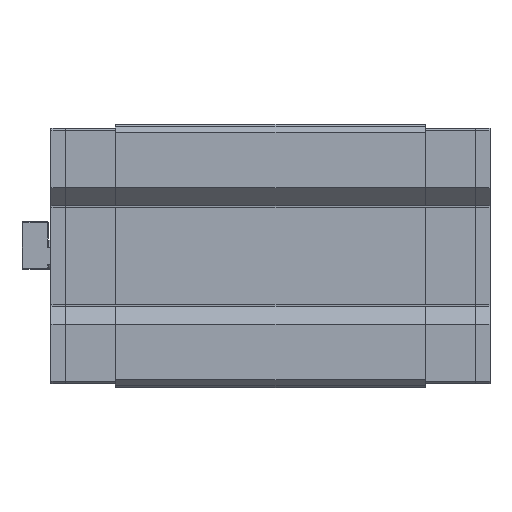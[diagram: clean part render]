
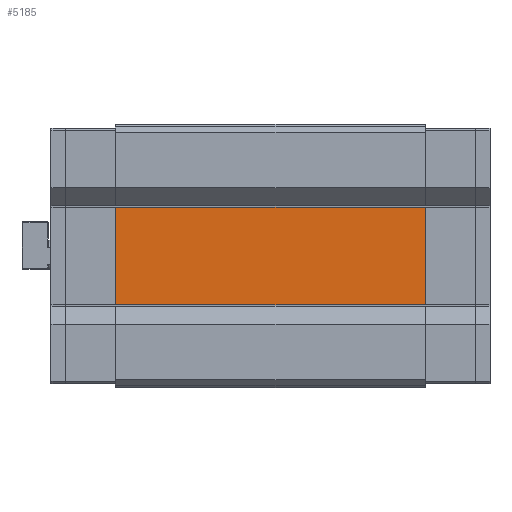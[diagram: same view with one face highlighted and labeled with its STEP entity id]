
A CAD part, front view. The second image highlights one B-rep face of the part: STEP entity #5185.
In plain terms, the highlighted planar face has unit normal (0, -1, 0).
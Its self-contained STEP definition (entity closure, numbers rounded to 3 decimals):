
#299 = FACE_OUTER_BOUND ( 'NONE', #1687, .T. ) ;
#732 = CARTESIAN_POINT ( 'NONE',  ( 58.85, 0., -9.779 ) ) ;
#1527 = VECTOR ( 'NONE', #9892, 1000. ) ;
#1687 = EDGE_LOOP ( 'NONE', ( #8471, #8331, #3625, #2676 ) ) ;
#2122 = DIRECTION ( 'NONE',  ( 0., 0., 1. ) ) ;
#2504 = CARTESIAN_POINT ( 'NONE',  ( -58.85, 0., -18.549 ) ) ;
#2511 = DIRECTION ( 'NONE',  ( 0., 0., -1. ) ) ;
#2583 = CARTESIAN_POINT ( 'NONE',  ( -58.85, 0., 18.55 ) ) ;
#2676 = ORIENTED_EDGE ( 'NONE', *, *, #10374, .F. ) ;
#2727 = EDGE_CURVE ( 'NONE', #10982, #10256, #3678, .T. ) ;
#3625 = ORIENTED_EDGE ( 'NONE', *, *, #6257, .F. ) ;
#3678 = LINE ( 'NONE', #4742, #10766 ) ;
#3686 = CARTESIAN_POINT ( 'NONE',  ( -100., 0., 18.55 ) ) ;
#4472 = EDGE_CURVE ( 'NONE', #10982, #7387, #7500, .T. ) ;
#4620 = CARTESIAN_POINT ( 'NONE',  ( 58.85, 0., 18.55 ) ) ;
#4742 = CARTESIAN_POINT ( 'NONE',  ( -58.85, 0., -9.779 ) ) ;
#4861 = LINE ( 'NONE', #732, #6786 ) ;
#5185 = ADVANCED_FACE ( 'NONE', ( #299 ), #5369, .F. ) ;
#5315 = CARTESIAN_POINT ( 'NONE',  ( -141.15, 0., -19.5 ) ) ;
#5360 = DIRECTION ( 'NONE',  ( 1., 0., 0. ) ) ;
#5369 = PLANE ( 'NONE',  #8792 ) ;
#5755 = VECTOR ( 'NONE', #5360, 1000. ) ;
#6257 = EDGE_CURVE ( 'NONE', #7790, #7387, #4861, .T. ) ;
#6307 = DIRECTION ( 'NONE',  ( 0., 0., 1. ) ) ;
#6786 = VECTOR ( 'NONE', #2511, 1000. ) ;
#7387 = VERTEX_POINT ( 'NONE', #10427 ) ;
#7500 = LINE ( 'NONE', #10780, #1527 ) ;
#7790 = VERTEX_POINT ( 'NONE', #4620 ) ;
#7806 = DIRECTION ( 'NONE',  ( 0., 1., 0. ) ) ;
#8331 = ORIENTED_EDGE ( 'NONE', *, *, #4472, .T. ) ;
#8471 = ORIENTED_EDGE ( 'NONE', *, *, #2727, .F. ) ;
#8792 = AXIS2_PLACEMENT_3D ( 'NONE', #5315, #7806, #6307 ) ;
#9523 = LINE ( 'NONE', #3686, #5755 ) ;
#9892 = DIRECTION ( 'NONE',  ( 1., 0., 0. ) ) ;
#10256 = VERTEX_POINT ( 'NONE', #2583 ) ;
#10374 = EDGE_CURVE ( 'NONE', #10256, #7790, #9523, .T. ) ;
#10427 = CARTESIAN_POINT ( 'NONE',  ( 58.85, 0., -18.549 ) ) ;
#10766 = VECTOR ( 'NONE', #2122, 1000. ) ;
#10780 = CARTESIAN_POINT ( 'NONE',  ( -100., 0., -18.549 ) ) ;
#10982 = VERTEX_POINT ( 'NONE', #2504 ) ;
